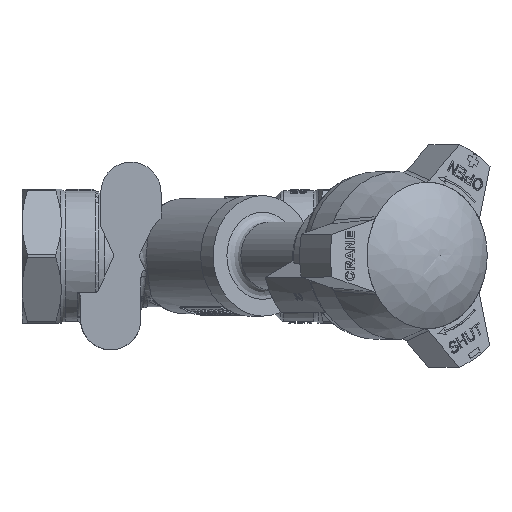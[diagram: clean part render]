
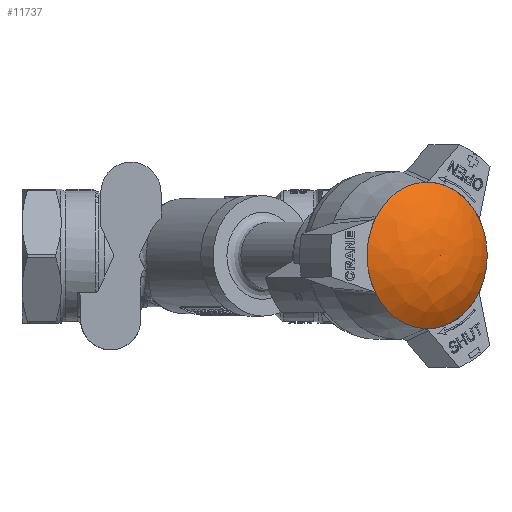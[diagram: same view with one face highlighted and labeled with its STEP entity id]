
A CAD part, top view. The second image highlights one B-rep face of the part: STEP entity #11737.
In plain terms, the highlighted free-form (B-spline) face has degree [2, 2] with [5, 9] control points.
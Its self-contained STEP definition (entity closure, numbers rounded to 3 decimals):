
#11648=CARTESIAN_POINT('',(20.981,21.883,107.019));
#11649=VERTEX_POINT('',#11648);
#11650=CARTESIAN_POINT('',(20.95,0.,107.04));
#11651=DIRECTION('',(0.574,0.,0.819));
#11652=DIRECTION('',(0.001,1.,-0.001));
#11653=AXIS2_PLACEMENT_3D('',#11650,#11651,#11652);
#11654=CIRCLE('',#11653,21.883);
#11655=EDGE_CURVE('',#11649,#11649,#11654,.T.);
#11681=CARTESIAN_POINT('',(35.832,-0.056,71.517));
#11682=CARTESIAN_POINT('',(42.108,-0.054,82.306));
#11683=CARTESIAN_POINT('',(38.907,-0.038,94.37));
#11684=CARTESIAN_POINT('',(35.707,-0.021,106.434));
#11685=CARTESIAN_POINT('',(24.908,0.,112.692));
#11686=CARTESIAN_POINT('',(35.787,-32.621,71.549));
#11687=CARTESIAN_POINT('',(42.064,-31.572,82.337));
#11688=CARTESIAN_POINT('',(38.877,-22.014,94.391));
#11689=CARTESIAN_POINT('',(35.689,-12.457,106.446));
#11690=CARTESIAN_POINT('',(24.908,0.,112.692));
#11691=CARTESIAN_POINT('',(9.111,-32.565,90.228));
#11692=CARTESIAN_POINT('',(16.246,-31.518,100.415));
#11693=CARTESIAN_POINT('',(20.874,-21.977,106.997));
#11694=CARTESIAN_POINT('',(25.503,-12.436,113.579));
#11695=CARTESIAN_POINT('',(24.908,0.,112.692));
#11696=CARTESIAN_POINT('',(-17.566,-32.51,108.907));
#11697=CARTESIAN_POINT('',(-9.573,-31.464,118.493));
#11698=CARTESIAN_POINT('',(2.872,-21.939,119.602));
#11699=CARTESIAN_POINT('',(15.316,-12.414,120.711));
#11700=CARTESIAN_POINT('',(24.908,0.,112.692));
#11701=CARTESIAN_POINT('',(-17.52,0.056,108.875));
#11702=CARTESIAN_POINT('',(-9.529,0.054,118.462));
#11703=CARTESIAN_POINT('',(2.903,0.038,119.581));
#11704=CARTESIAN_POINT('',(15.334,0.021,120.699));
#11705=CARTESIAN_POINT('',(24.908,0.,112.692));
#11706=CARTESIAN_POINT('',(-17.474,32.621,108.843));
#11707=CARTESIAN_POINT('',(-9.484,31.572,118.431));
#11708=CARTESIAN_POINT('',(2.933,22.014,119.559));
#11709=CARTESIAN_POINT('',(15.351,12.457,120.687));
#11710=CARTESIAN_POINT('',(24.908,0.,112.692));
#11711=CARTESIAN_POINT('',(9.202,32.565,90.164));
#11712=CARTESIAN_POINT('',(16.334,31.518,100.353));
#11713=CARTESIAN_POINT('',(20.936,21.977,106.954));
#11714=CARTESIAN_POINT('',(25.538,12.436,113.554));
#11715=CARTESIAN_POINT('',(24.908,0.,112.692));
#11716=CARTESIAN_POINT('',(35.878,32.51,71.486));
#11717=CARTESIAN_POINT('',(42.152,31.464,82.275));
#11718=CARTESIAN_POINT('',(38.938,21.939,94.348));
#11719=CARTESIAN_POINT('',(35.724,12.414,106.422));
#11720=CARTESIAN_POINT('',(24.908,0.,112.692));
#11721=CARTESIAN_POINT('',(35.832,-0.056,71.517));
#11722=CARTESIAN_POINT('',(42.108,-0.054,82.306));
#11723=CARTESIAN_POINT('',(38.907,-0.038,94.37));
#11724=CARTESIAN_POINT('',(35.707,-0.021,106.434));
#11725=CARTESIAN_POINT('',(24.908,0.,112.692));
#11733=(BOUNDED_SURFACE()B_SPLINE_SURFACE(2,2,((#11681,#11686,#11691,#11696,#11701,#11706,#11711,#11716,#11721),(#11682,#11687,#11692,#11697,#11702,#11707,#11712,#11717,#11722),(#11683,#11688,#11693,#11698,#11703,#11708,#11713,#11718,#11723),(#11684,#11689,#11694,#11699,#11704,#11709,#11714,#11719,#11724),(#11685,#11690,#11695,#11700,#11705,#11710,#11715,#11720,#11725)),.UNSPECIFIED.,.F.,.T.,.U.)B_SPLINE_SURFACE_WITH_KNOTS((3,2,3),(3,2,2,2,3),(0.084,0.87,1.656),(0.0,1.571,3.142,4.712,6.283),.UNSPECIFIED.)GEOMETRIC_REPRESENTATION_ITEM()RATIONAL_B_SPLINE_SURFACE(((1.0,0.707,1.0,0.707,1.0,0.707,1.0,0.707,1.0),(0.924,0.653,0.924,0.653,0.924,0.653,0.924,0.653,0.924),(1.0,0.707,1.0,0.707,1.0,0.707,1.0,0.707,1.0),(0.924,0.653,0.924,0.653,0.924,0.653,0.924,0.653,0.924),(1.0,0.707,1.0,0.707,1.0,0.707,1.0,0.707,1.0)))REPRESENTATION_ITEM('')SURFACE());
#11734=ORIENTED_EDGE('',*,*,#11655,.T.);
#11735=EDGE_LOOP('',(#11734));
#11736=FACE_OUTER_BOUND('',#11735,.T.);
#11737=ADVANCED_FACE('',(#11736),#11733,.T.);
